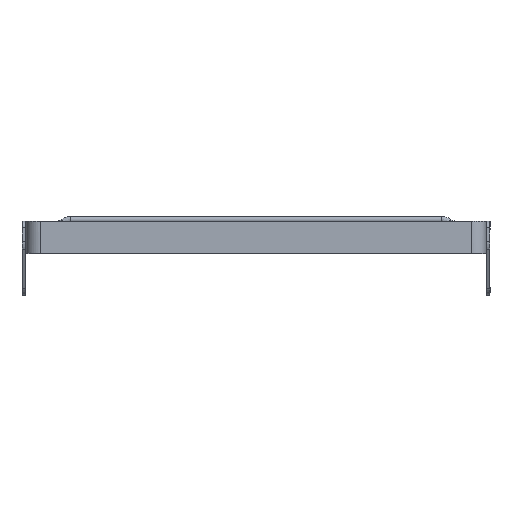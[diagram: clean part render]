
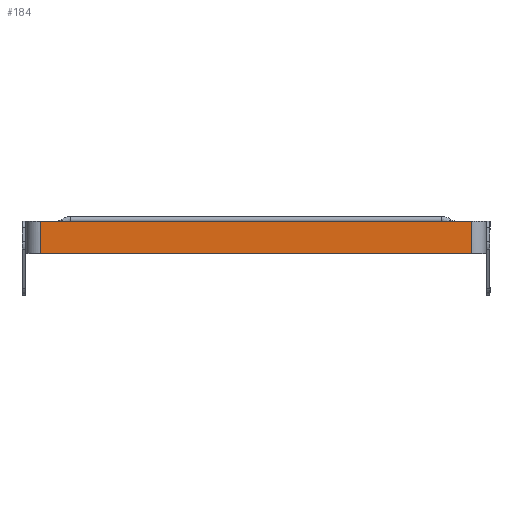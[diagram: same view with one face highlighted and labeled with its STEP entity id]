
A CAD part, top view. The second image highlights one B-rep face of the part: STEP entity #184.
In plain terms, the highlighted planar face has unit normal (0, 0, 1).
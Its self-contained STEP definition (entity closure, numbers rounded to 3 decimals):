
#184=ADVANCED_FACE('',(#360),#3023,.T.);
#360=FACE_OUTER_BOUND('',#549,.T.);
#549=EDGE_LOOP('',(#1278,#1279,#1280,#1281));
#1278=ORIENTED_EDGE('',*,*,#1973,.F.);
#1279=ORIENTED_EDGE('',*,*,#1962,.T.);
#1280=ORIENTED_EDGE('',*,*,#1987,.F.);
#1281=ORIENTED_EDGE('',*,*,#1989,.T.);
#1962=EDGE_CURVE('',#2873,#2874,#2270,.T.);
#1973=EDGE_CURVE('',#2873,#2889,#2279,.T.);
#1987=EDGE_CURVE('',#2895,#2874,#2288,.T.);
#1989=EDGE_CURVE('',#2895,#2889,#2289,.T.);
#2270=B_SPLINE_CURVE_WITH_KNOTS('',1,(#8344,#8345),.UNSPECIFIED.,.F.,.F.,
(2,2),(0.,268.),.UNSPECIFIED.);
#2279=B_SPLINE_CURVE_WITH_KNOTS('',1,(#8368,#8369),.UNSPECIFIED.,.F.,.F.,
(2,2),(-20.,0.),.UNSPECIFIED.);
#2288=B_SPLINE_CURVE_WITH_KNOTS('',1,(#8401,#8402),.UNSPECIFIED.,.F.,.F.,
(2,2),(-20.,0.),.UNSPECIFIED.);
#2289=B_SPLINE_CURVE_WITH_KNOTS('',1,(#8406,#8407),.UNSPECIFIED.,.F.,.F.,
(2,2),(-268.,0.),.UNSPECIFIED.);
#2873=VERTEX_POINT('',#7111);
#2874=VERTEX_POINT('',#7112);
#2889=VERTEX_POINT('',#7127);
#2895=VERTEX_POINT('',#7133);
#3023=PLANE('',#3362);
#3362=AXIS2_PLACEMENT_3D('',#6880,#3501,$);
#3501=DIRECTION('',(0.,0.,1.));
#6880=CARTESIAN_POINT('',(-160.92,60.88,54.6));
#7111=CARTESIAN_POINT('',(-134.,63.,54.6));
#7112=CARTESIAN_POINT('',(134.,63.,54.6));
#7127=CARTESIAN_POINT('',(-134.,83.,54.6));
#7133=CARTESIAN_POINT('',(134.,83.,54.6));
#8344=CARTESIAN_POINT('',(-134.,63.,54.6));
#8345=CARTESIAN_POINT('',(134.,63.,54.6));
#8368=CARTESIAN_POINT('',(-134.,63.,54.6));
#8369=CARTESIAN_POINT('',(-134.,83.,54.6));
#8401=CARTESIAN_POINT('',(134.,83.,54.6));
#8402=CARTESIAN_POINT('',(134.,63.,54.6));
#8406=CARTESIAN_POINT('',(134.,83.,54.6));
#8407=CARTESIAN_POINT('',(-134.,83.,54.6));
